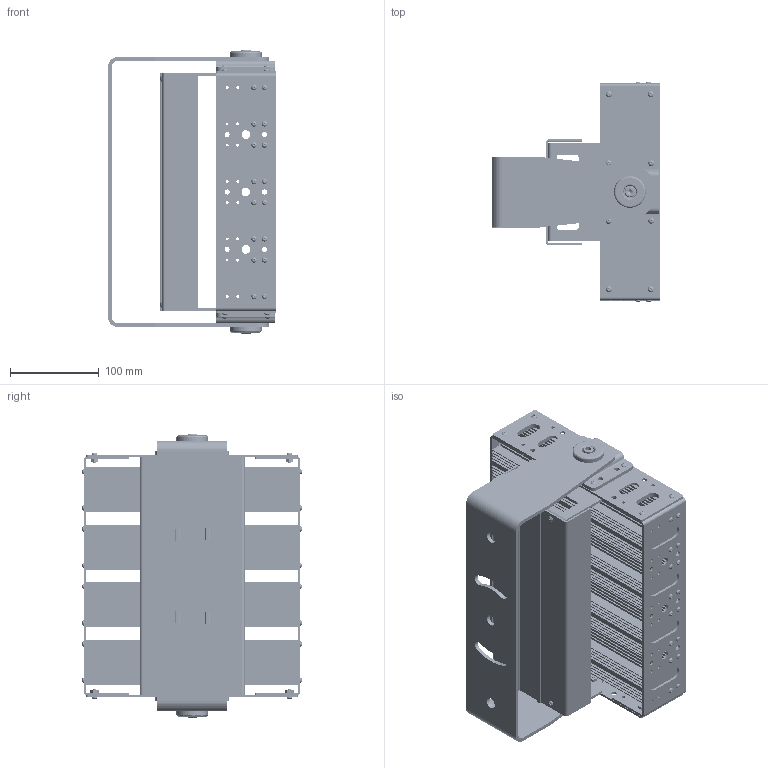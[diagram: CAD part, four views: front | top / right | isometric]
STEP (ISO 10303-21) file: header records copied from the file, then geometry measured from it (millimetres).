
FILE_DESCRIPTION (( 'STEP AP214' ), '1' );
FILE_NAME ('GAU-LTL-150W-LED.STEP', '2016-01-05T14:04:31', ( '' ), ( '' ), 'SwSTEP 2.0', 'SolidWorks 2016', '' );
FILE_SCHEMA (( 'AUTOMOTIVE_DESIGN' ));
Length unit declared in the file: inch
Products named in the file (16): machine screw nut hex_ai_MSHXNUT 0.3125-24-S-N; GAU-LTL-150W-LED Side Plate; socket head cap screw_ai_HX-SHCS 0.3125-24x0.625x0.625-N; GAU-LTL-150W Light Bar; socket button head cap screw_ai_SBHCSCREW 0.138-40x0.5625-HX-N; GAU-LTL-150W Top Plate; socket button head cap screw_ai_SBHCSCREW 0.138-40x0.4375-HX-N; socket button head cap screw_ai_SBHCSCREW 0.138-40x0.375-HX-N; GAU-LTL-150W-LED; machine screw nut hex_ai_MSHXNUT 0.138-32-S-N; socket button head cap screw_ai_SBHCSCREW 0.125-44x0.125-HX-N; GAU-LTL-150W Trunnion Knob; GAU-LTL-150W-LED Trunnion; GAU-LTL-150W-LED Power Supply Mount; GAU-LTL-150W-LED Trunnion Mount; GAU-LTL-150W-LED Power Supply Bracket
Assembly tree (92 placements, depth 2):
  GAU-LTL-150W-LED
    GAU-LTL-150W Top Plate  x2
    GAU-LTL-150W Light Bar  x4
    GAU-LTL-150W-LED Side Plate  x2
    GAU-LTL-150W-LED Trunnion Mount  x2
    GAU-LTL-150W-LED Power Supply Bracket  x2
    GAU-LTL-150W-LED Power Supply Mount
    GAU-LTL-150W-LED Trunnion
    GAU-LTL-150W Trunnion Knob  x2
    socket button head cap screw_ai_SBHCSCREW 0.125-44x0.125-HX-N  x32
    machine screw nut hex_ai_MSHXNUT 0.138-32-S-N  x20
    socket button head cap screw_ai_SBHCSCREW 0.138-40x0.375-HX-N  x8
    socket button head cap screw_ai_SBHCSCREW 0.138-40x0.4375-HX-N  x4
    socket button head cap screw_ai_SBHCSCREW 0.138-40x0.5625-HX-N  x8
    socket head cap screw_ai_HX-SHCS 0.3125-24x0.625x0.625-N  x2
    machine screw nut hex_ai_MSHXNUT 0.3125-24-S-N  x2
Bounding box: 189.83 x 248.08 x 319.81 mm (x, y, z)
Volume: 2716868.6 mm3; surface area: 1144945 mm2
Topology: 108 solids, 108 shells, 6662 faces, 16474 edges, 10218 vertices
Faces by surface type: plane 2204, cylinder 2138, bspline 1608, cone 604, sphere 104, torus 4
Entity records: 85767 total; most frequent: CARTESIAN_POINT 28166, ORIENTED_EDGE 12222, DIRECTION 11599, EDGE_CURVE 6111, AXIS2_PLACEMENT_3D 4604, VERTEX_POINT 3827, CIRCLE 2892, EDGE_LOOP 2758
